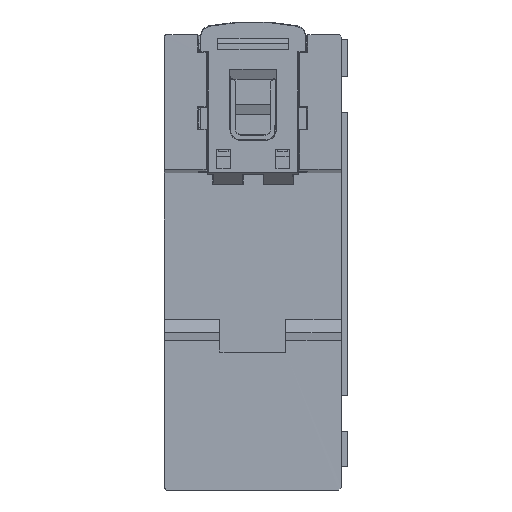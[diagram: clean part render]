
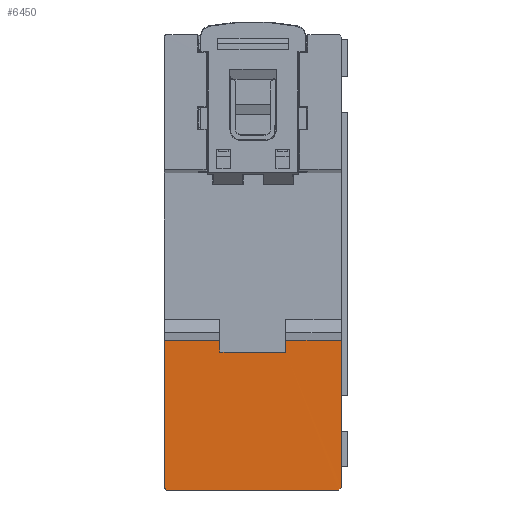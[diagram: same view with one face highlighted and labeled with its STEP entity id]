
A CAD part, top view. The second image highlights one B-rep face of the part: STEP entity #6450.
In plain terms, the highlighted planar face has unit normal (0, 0, 1) as drawn and (1, 0, 0) by its records, which use the part's own axes.
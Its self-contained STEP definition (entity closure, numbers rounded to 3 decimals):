
#6450=ADVANCED_FACE('',(#8492),#44860,.T.);
#8492=FACE_OUTER_BOUND('',#10786,.T.);
#10786=EDGE_LOOP('',(#17344,#17345,#17346,#17347,#17348,#17349,#17350,#17351,
#17352,#17353));
#17344=ORIENTED_EDGE('',*,*,#28255,.T.);
#17345=ORIENTED_EDGE('',*,*,#28256,.T.);
#17346=ORIENTED_EDGE('',*,*,#28257,.T.);
#17347=ORIENTED_EDGE('',*,*,#28258,.T.);
#17348=ORIENTED_EDGE('',*,*,#28259,.T.);
#17349=ORIENTED_EDGE('',*,*,#28217,.F.);
#17350=ORIENTED_EDGE('',*,*,#28249,.F.);
#17351=ORIENTED_EDGE('',*,*,#28241,.F.);
#17352=ORIENTED_EDGE('',*,*,#28246,.F.);
#17353=ORIENTED_EDGE('',*,*,#28234,.F.);
#28217=EDGE_CURVE('',#42379,#42380,#35230,.T.);
#28234=EDGE_CURVE('',#42406,#42393,#35247,.T.);
#28241=EDGE_CURVE('',#42415,#42416,#35254,.T.);
#28246=EDGE_CURVE('',#42393,#42415,#35259,.T.);
#28249=EDGE_CURVE('',#42416,#42379,#35262,.T.);
#28255=EDGE_CURVE('',#42406,#42419,#35268,.T.);
#28256=EDGE_CURVE('',#42419,#42420,#35269,.T.);
#28257=EDGE_CURVE('',#42420,#42421,#35270,.T.);
#28258=EDGE_CURVE('',#42421,#42422,#35271,.T.);
#28259=EDGE_CURVE('',#42422,#42380,#35272,.T.);
#35230=B_SPLINE_CURVE_WITH_KNOTS('',1,(#108132,#108133),.UNSPECIFIED.,.F.,
 .F.,(2,2),(0.,29.1),.UNSPECIFIED.);
#35247=B_SPLINE_CURVE_WITH_KNOTS('',1,(#108166,#108167),.UNSPECIFIED.,.F.,
 .F.,(2,2),(0.,29.1),.UNSPECIFIED.);
#35254=B_SPLINE_CURVE_WITH_KNOTS('',1,(#108180,#108181),.UNSPECIFIED.,.F.,
 .F.,(2,2),(0.,34.),.UNSPECIFIED.);
#35259=B_SPLINE_CURVE_WITH_KNOTS('',3,(#108192,#108193,#108194,#108195),
 .UNSPECIFIED.,.F.,.F.,(4,4),(0.,0.869),.UNSPECIFIED.);
#35262=B_SPLINE_CURVE_WITH_KNOTS('',3,(#108200,#108201,#108202,#108203),
 .UNSPECIFIED.,.F.,.F.,(4,4),(0.,0.869),.UNSPECIFIED.);
#35268=B_SPLINE_CURVE_WITH_KNOTS('',1,(#108216,#108217),.UNSPECIFIED.,.F.,
 .F.,(2,2),(0.,11.),.UNSPECIFIED.);
#35269=B_SPLINE_CURVE_WITH_KNOTS('',1,(#108218,#108219),.UNSPECIFIED.,.F.,
 .F.,(2,2),(0.,2.35),.UNSPECIFIED.);
#35270=B_SPLINE_CURVE_WITH_KNOTS('',1,(#108220,#108221),.UNSPECIFIED.,.F.,
 .F.,(2,2),(0.,13.),.UNSPECIFIED.);
#35271=B_SPLINE_CURVE_WITH_KNOTS('',1,(#108222,#108223),.UNSPECIFIED.,.F.,
 .F.,(2,2),(0.,2.35),.UNSPECIFIED.);
#35272=B_SPLINE_CURVE_WITH_KNOTS('',1,(#108224,#108225),.UNSPECIFIED.,.F.,
 .F.,(2,2),(0.,11.),.UNSPECIFIED.);
#42379=VERTEX_POINT('',#107754);
#42380=VERTEX_POINT('',#107755);
#42393=VERTEX_POINT('',#107768);
#42406=VERTEX_POINT('',#107781);
#42415=VERTEX_POINT('',#107790);
#42416=VERTEX_POINT('',#107791);
#42419=VERTEX_POINT('',#107794);
#42420=VERTEX_POINT('',#107795);
#42421=VERTEX_POINT('',#107796);
#42422=VERTEX_POINT('',#107797);
#44860=PLANE('',#46183);
#46183=AXIS2_PLACEMENT_3D('',#107368,#47351,$);
#47351=DIRECTION('',(1.,0.,0.));
#107368=CARTESIAN_POINT('',(29.2,-48.08,-21.12));
#107754=CARTESIAN_POINT('',(29.2,-44.5,17.5));
#107755=CARTESIAN_POINT('',(29.2,-15.4,17.5));
#107768=CARTESIAN_POINT('',(29.2,-44.5,-17.5));
#107781=CARTESIAN_POINT('',(29.2,-15.4,-17.5));
#107790=CARTESIAN_POINT('',(29.207,-45.,-17.));
#107791=CARTESIAN_POINT('',(29.207,-45.,17.));
#107794=CARTESIAN_POINT('',(29.2,-15.4,-6.5));
#107795=CARTESIAN_POINT('',(29.2,-17.75,-6.5));
#107796=CARTESIAN_POINT('',(29.2,-17.75,6.5));
#107797=CARTESIAN_POINT('',(29.2,-15.4,6.5));
#108132=CARTESIAN_POINT('',(29.2,-44.5,17.5));
#108133=CARTESIAN_POINT('',(29.2,-15.4,17.5));
#108166=CARTESIAN_POINT('',(29.2,-15.4,-17.5));
#108167=CARTESIAN_POINT('',(29.2,-44.5,-17.5));
#108180=CARTESIAN_POINT('',(29.207,-45.,-17.));
#108181=CARTESIAN_POINT('',(29.207,-45.,17.));
#108192=CARTESIAN_POINT('',(29.2,-44.5,-17.5));
#108193=CARTESIAN_POINT('',(29.201,-44.777,-17.5));
#108194=CARTESIAN_POINT('',(29.192,-45.,-17.276));
#108195=CARTESIAN_POINT('',(29.207,-45.,-17.));
#108200=CARTESIAN_POINT('',(29.207,-45.,17.));
#108201=CARTESIAN_POINT('',(29.192,-45.,17.276));
#108202=CARTESIAN_POINT('',(29.201,-44.777,17.5));
#108203=CARTESIAN_POINT('',(29.2,-44.5,17.5));
#108216=CARTESIAN_POINT('',(29.2,-15.4,-17.5));
#108217=CARTESIAN_POINT('',(29.2,-15.4,-6.5));
#108218=CARTESIAN_POINT('',(29.2,-15.4,-6.5));
#108219=CARTESIAN_POINT('',(29.2,-17.75,-6.5));
#108220=CARTESIAN_POINT('',(29.2,-17.75,-6.5));
#108221=CARTESIAN_POINT('',(29.2,-17.75,6.5));
#108222=CARTESIAN_POINT('',(29.2,-17.75,6.5));
#108223=CARTESIAN_POINT('',(29.2,-15.4,6.5));
#108224=CARTESIAN_POINT('',(29.2,-15.4,6.5));
#108225=CARTESIAN_POINT('',(29.2,-15.4,17.5));
